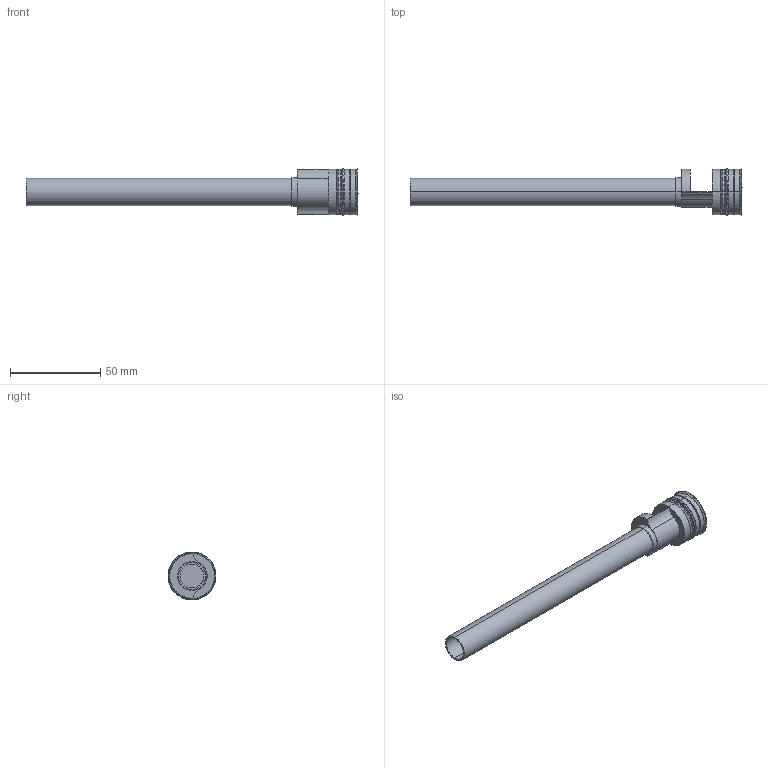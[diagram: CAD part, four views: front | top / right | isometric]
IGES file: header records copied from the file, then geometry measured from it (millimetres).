
Start section: START RECORD GO HERE.
Global section: file name: RF-25Fx150_15.igs; native system: DASSAULT SYSTEMES CATIA V5 R20 - www.3ds.com; preprocessor: CATIA Version 5 Release 20 ; author: Utente; organization: NB04-ASUS; date: 20210223.202851; units: millimetre
Bounding box: 183.5 x 26.5 x 26.5 mm (x, y, z)
Surface area: 18005.4 mm2 (no closed solid volume)
Topology: 0 solids, 0 shells, 74 faces, 416 edges, 416 vertices
Faces by surface type: revolution 47, plane 27
